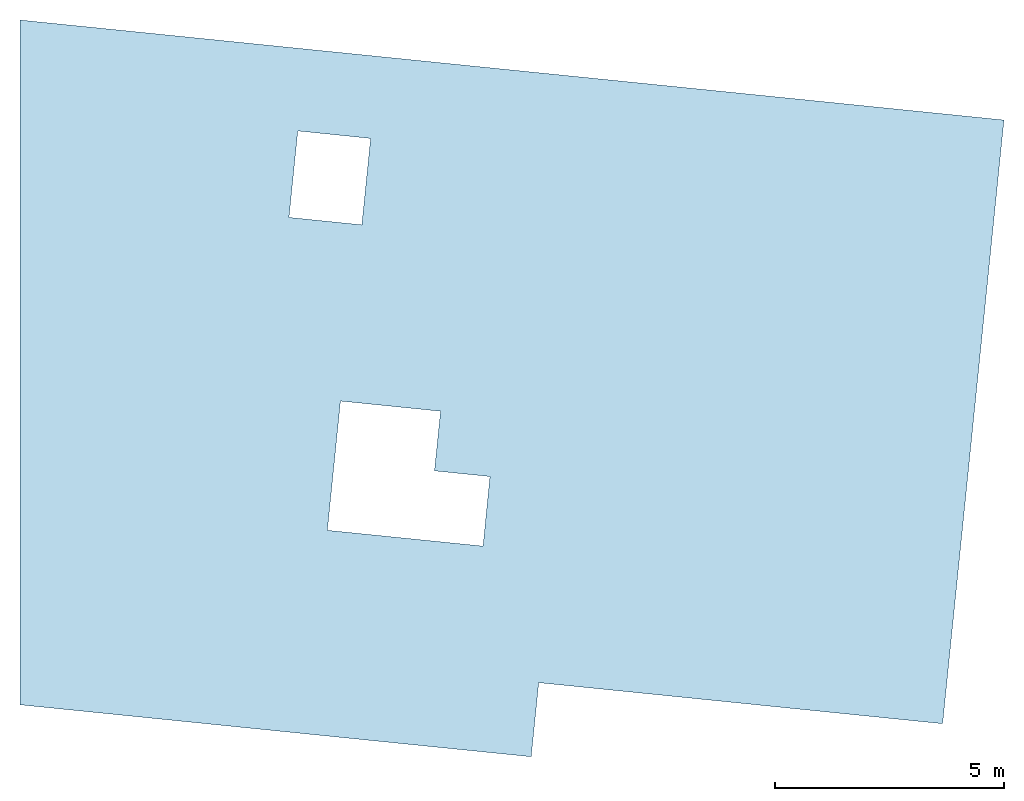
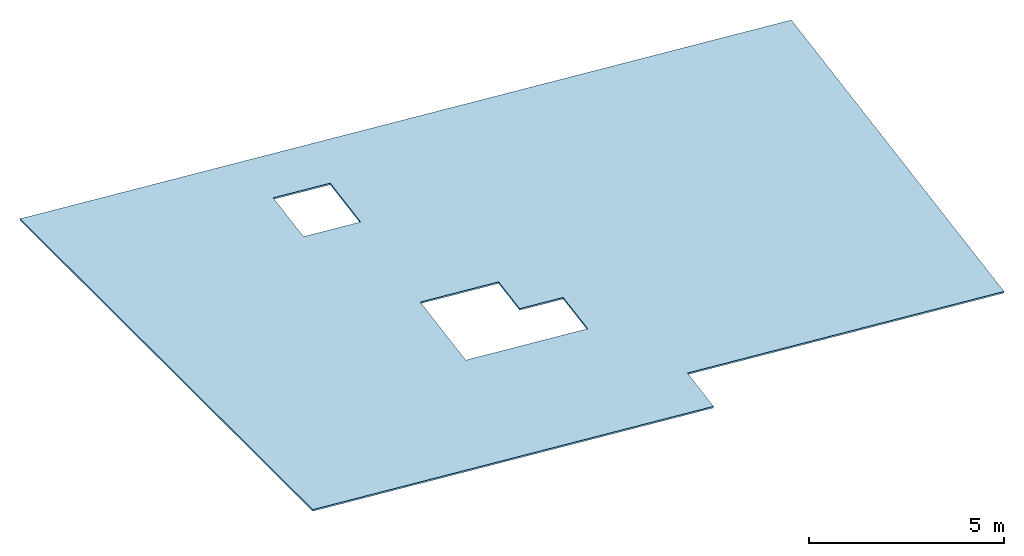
# One storey: 1 slab.
"""IFC2X3 building model written with IfcOpenShell, lengths in millimetres."""

import ifcopenshell
import ifcopenshell.guid

model = None  # the IFC model being written
_history = None  # IfcOwnerHistory: only IFC2X3 demands one
_inside = {}  # id of a spatial element -> (the spatial element, [elements in it])
_under = {}  # id of a project, library or spatial element -> (it, [spatial elements below it])
_declared = {}  # id of a project -> (the project, [libraries it declares])
_typed = {}  # id of a type object -> (the type object, [elements of that type])
_made_of = {}  # id of a material, layer set ... -> (it, [elements and type objects made of it])


def new_model(schema):
    """Start an empty IFC model of exactly this schema.

    Asked for "IFC4X3", IfcOpenShell would pick the latest addendum, in which some entities
    have other attributes; the version numbers below select the first issue.
    IFC2X3 requires an IfcOwnerHistory on every rooted entity: one is made here for all.
    """
    global model, _history
    if schema == "IFC4X3":
        model = ifcopenshell.file(schema_version=(4, 3, 0, 0))
    else:
        model = ifcopenshell.file(schema=schema)
    _inside.clear()
    _under.clear()
    _declared.clear()
    _typed.clear()
    _made_of.clear()
    _history = None
    if model.schema == "IFC2X3":
        org = make("IfcOrganization", Name="unknown")
        user = make(
            "IfcPersonAndOrganization",
            ThePerson=make("IfcPerson", FamilyName="unknown"),
            TheOrganization=org,
        )
        app = make(
            "IfcApplication",
            ApplicationDeveloper=org,
            Version="unknown",
            ApplicationFullName="unknown",
            ApplicationIdentifier="unknown",
        )
        _history = make(
            "IfcOwnerHistory",
            OwningUser=user,
            OwningApplication=app,
            ChangeAction="ADDED",
            CreationDate=0,
        )
    return model


def make(cls, **values):
    """One entity of the class cls with the attributes given. An attribute that is None is left unset."""
    return model.create_entity(
        cls, **{name: value for name, value in values.items() if value is not None}
    )


def entity(cls, *values):
    """Any entity or typed value of the class cls, its attributes in the order of the schema. None: left unset."""
    e = model.create_entity(cls)
    for i, value in enumerate(values):
        if value is not None:
            e[i] = value
    return e


def rooted(cls, **values):
    """An entity with a GlobalId (a new one), such as an element, a storey or a relation."""
    return make(cls, GlobalId=ifcopenshell.guid.new(), OwnerHistory=_history, **values)


def si_unit(unit_type, name, prefix=None):
    """IfcSIUnit, for example si_unit("LENGTHUNIT", "METRE", prefix="MILLI")."""
    return make("IfcSIUnit", UnitType=unit_type, Prefix=prefix, Name=name)


def converted_unit(unit_type, name, factor, base, dimensions=None, offset=None):
    """IfcConversionBasedUnit, such as the inch: factor (a typed value) times the base unit."""
    return make(
        "IfcConversionBasedUnit"
        if offset is None
        else "IfcConversionBasedUnitWithOffset",
        ConversionOffset=offset,
        Dimensions=None
        if dimensions is None
        else entity("IfcDimensionalExponents", *dimensions),
        UnitType=unit_type,
        Name=name,
        ConversionFactor=make(
            "IfcMeasureWithUnit", ValueComponent=factor, UnitComponent=base
        ),
    )


def derived_unit(unit_type, elements):
    """IfcDerivedUnit: a product of units, each with its exponent."""
    return make(
        "IfcDerivedUnit",
        Elements=[
            make("IfcDerivedUnitElement", Unit=unit, Exponent=power)
            for unit, power in elements
        ],
        UnitType=unit_type,
    )


def money_unit(currency):
    """IfcMonetaryUnit."""
    return make("IfcMonetaryUnit", Currency=currency)


def assignment(units):
    """IfcUnitAssignment: the units of a project."""
    return None if units is None else make("IfcUnitAssignment", Units=units)


def point(xyz):
    """IfcCartesianPoint."""
    return None if xyz is None else make("IfcCartesianPoint", Coordinates=xyz)


def direction(xyz):
    """IfcDirection."""
    return None if xyz is None else make("IfcDirection", DirectionRatios=xyz)


def frame(location, z_axis=None, x_axis=None):
    """IfcAxis2Placement3D, a coordinate frame: its origin and axes. An axis left out is left unset."""
    return make(
        "IfcAxis2Placement3D",
        Location=point(location),
        Axis=direction(z_axis),
        RefDirection=direction(x_axis),
    )


def origin_with_axes():
    """The frame at (0, 0, 0) with the z axis (0, 0, 1) and the x axis (1, 0, 0) written out."""
    return frame((0.0, 0.0, 0.0), z_axis=(0.0, 0.0, 1.0), x_axis=(1.0, 0.0, 0.0))


def place(relative_to, where):
    """IfcLocalPlacement: puts the frame where relative to a parent placement (None: the world)."""
    return make(
        "IfcLocalPlacement", PlacementRelTo=relative_to, RelativePlacement=where
    )


def context(
    kind, dimensions, precision=None, world=None, true_north=None, identifier=None
):
    """IfcGeometricRepresentationContext, for example the 3D "Model" context."""
    return make(
        "IfcGeometricRepresentationContext",
        ContextIdentifier=identifier,
        ContextType=kind,
        CoordinateSpaceDimension=dimensions,
        Precision=precision,
        WorldCoordinateSystem=world,
        TrueNorth=true_north,
    )


def subcontext(parent, identifier, kind, view, scale=None):
    """IfcGeometricRepresentationSubContext, for example "Body" below "Model"."""
    return make(
        "IfcGeometricRepresentationSubContext",
        ContextIdentifier=identifier,
        ContextType=kind,
        ParentContext=parent,
        TargetScale=scale,
        TargetView=view,
    )


def project(units=None, contexts=None):
    """IfcProject with its units and contexts."""
    return rooted(
        "IfcProject",
        Name="project",
        RepresentationContexts=contexts,
        UnitsInContext=assignment(units),
    )


def spatial(cls, under=None, at=None, **own):
    """A site, building, storey or space (cls), placed at a placement, below another one or the project."""
    s = rooted(cls, ObjectPlacement=at, **own)
    if under is not None:
        _under.setdefault(under.id(), (under, []))[1].append(s)
    return s


def polyline(points):
    """IfcPolyline through the points."""
    return make("IfcPolyline", Points=[point(p) for p in points])


def outline(outer, holes=None, kind="AREA"):
    """IfcArbitraryClosedProfileDef: a profile drawn as a closed curve; with holes, ...WithVoids."""
    if holes is None:
        return make("IfcArbitraryClosedProfileDef", ProfileType=kind, OuterCurve=outer)
    return make(
        "IfcArbitraryProfileDefWithVoids",
        ProfileType=kind,
        OuterCurve=outer,
        InnerCurves=holes,
    )


def extrude(swept, where, along, depth):
    """IfcExtrudedAreaSolid: the profile swept, set in the frame where, extruded along a direction by depth."""
    return make(
        "IfcExtrudedAreaSolid",
        SweptArea=swept,
        Position=where,
        ExtrudedDirection=direction(along),
        Depth=depth,
    )


def shape(context_of_items, identifier, shape_type, items):
    """IfcShapeRepresentation: the items that make up one representation, for example the "Body"."""
    return make(
        "IfcShapeRepresentation",
        ContextOfItems=context_of_items,
        RepresentationIdentifier=identifier,
        RepresentationType=shape_type,
        Items=items,
    )


def material(Name=None, Category=None):
    """IfcMaterial."""
    return make("IfcMaterial", Name=Name, Category=Category)


def layer(
    of_material, thickness, ventilated=None, Name=None, Category=None, Priority=None
):
    """IfcMaterialLayer: one layer of a wall or slab, of a material (None: an air gap)."""
    return make(
        "IfcMaterialLayer",
        Material=of_material,
        LayerThickness=thickness,
        IsVentilated=ventilated,
        Name=Name,
        Category=Category,
        Priority=Priority,
    )


def layer_set(layers, Name=None):
    """IfcMaterialLayerSet."""
    return make("IfcMaterialLayerSet", MaterialLayers=layers, LayerSetName=Name)


def layer_usage(for_layer_set, set_direction, sense, offset, extent=None):
    """IfcMaterialLayerSetUsage: how a layer set lies in its element."""
    return make(
        "IfcMaterialLayerSetUsage",
        ForLayerSet=for_layer_set,
        LayerSetDirection=set_direction,
        DirectionSense=sense,
        OffsetFromReferenceLine=offset,
        ReferenceExtent=extent,
    )


def made_of(thing, what):
    """Note that an element or type object is made of a material, layer set ...; save() writes the relation."""
    if what is not None:
        _made_of.setdefault(what.id(), (what, []))[1].append(thing)
    return thing


def type_object(cls, material=None, **own):
    """A type object (cls), such as IfcWallType, which elements share."""
    return made_of(rooted(cls, **own), material)


def element(
    cls,
    number,
    at=None,
    inside=None,
    cuts=None,
    type_object=None,
    material=None,
    context=None,
    identifier="Body",
    shape_type=None,
    held_by="IfcProductDefinitionShape",
    body=None,
    shapes=None,
    **own,
):
    """One element of the class cls, such as IfcWall. Its Tag is "e" and its number.

    at: its placement. inside: the storey or other place that contains it. cuts: it is an
    opening in that element (IfcRelVoidsElement). A single representation is given by context,
    identifier, shape_type and body (its items); several are given by shapes. held_by: the class
    of the entity that holds the representations. save() writes the other relations.
    """
    e = rooted(cls, Tag="e%d" % number, ObjectPlacement=at, **own)
    if body is not None:
        shapes = [shape(context, identifier, shape_type, body)]
    if shapes is not None:
        e.Representation = make(held_by, Representations=shapes)
    if inside is not None:
        _inside.setdefault(inside.id(), (inside, []))[1].append(e)
    if cuts is not None:
        rooted(
            "IfcRelVoidsElement", RelatingBuildingElement=cuts, RelatedOpeningElement=e
        )
    if type_object is not None:
        _typed.setdefault(type_object.id(), (type_object, []))[1].append(e)
    return made_of(e, material)


def aggregate(whole, parts):
    """IfcRelAggregates: a whole, such as a stair, and the parts it consists of."""
    return rooted("IfcRelAggregates", RelatingObject=whole, RelatedObjects=parts)


def save(model, path):
    """Write the relations noted so far, then the file.

    IfcRelAggregates (storeys below a building ...), IfcRelContainedInSpatialStructure (elements
    in a storey), IfcRelDefinesByType, IfcRelAssociatesMaterial and IfcRelDeclares: one each for
    every whole, place, type object, material and project.
    """
    for whole, parts in _under.values():
        aggregate(whole, parts)
    for where, things in _inside.values():
        rooted(
            "IfcRelContainedInSpatialStructure",
            RelatedElements=things,
            RelatingStructure=where,
        )
    for kind, things in _typed.values():
        rooted("IfcRelDefinesByType", RelatedObjects=things, RelatingType=kind)
    for what, things in _made_of.values():
        rooted("IfcRelAssociatesMaterial", RelatedObjects=things, RelatingMaterial=what)
    for by, libraries in _declared.values():
        rooted("IfcRelDeclares", RelatingContext=by, RelatedDefinitions=libraries)
    model.write(path)


model = new_model("IFC2X3")

# Units and contexts
model_context = context("Model", 3, precision=0.01, world=origin_with_axes(), true_north=direction((0.0, 1.0)))
body_context = subcontext(model_context, "Body", "Model", "MODEL_VIEW")
ifc_project = project(units=[si_unit("LENGTHUNIT", "METRE", prefix="MILLI"), si_unit("AREAUNIT", "SQUARE_METRE"), si_unit("VOLUMEUNIT", "CUBIC_METRE"), converted_unit("PLANEANGLEUNIT", "DEGREE", entity("IfcPlaneAngleMeasure", 0.0174532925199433), si_unit("PLANEANGLEUNIT", "RADIAN"), dimensions=[0, 0, 0, 0, 0, 0, 0]), money_unit("USD"), converted_unit("TIMEUNIT", "Year", entity("IfcTimeMeasure", 31557600.0), si_unit("TIMEUNIT", "SECOND"), dimensions=[0, 0, 1, 0, 0, 0, 0]), si_unit("MASSUNIT", "GRAM", prefix="KILO"), si_unit("THERMODYNAMICTEMPERATUREUNIT", "DEGREE_CELSIUS"), si_unit("LUMINOUSINTENSITYUNIT", "LUMEN"), si_unit("ENERGYUNIT", "JOULE", prefix="MEGA"), derived_unit("THERMALCONDUCTANCEUNIT", [(si_unit("POWERUNIT", "WATT"), 1), (si_unit("LENGTHUNIT", "METRE"), -1), (si_unit("THERMODYNAMICTEMPERATUREUNIT", "KELVIN"), -1)]), derived_unit("SPECIFICHEATCAPACITYUNIT", [(si_unit("ENERGYUNIT", "JOULE"), 1), (si_unit("MASSUNIT", "GRAM", prefix="KILO"), -1), (si_unit("THERMODYNAMICTEMPERATUREUNIT", "KELVIN"), -1)]), derived_unit("MASSDENSITYUNIT", [(si_unit("MASSUNIT", "GRAM", prefix="KILO"), 1), (si_unit("VOLUMEUNIT", "CUBIC_METRE"), -1)])], contexts=[model_context])

# Site, building, storey
site_placement = place(None, origin_with_axes())
site = spatial("IfcSite", under=ifc_project, at=site_placement, Name="Site", CompositionType="ELEMENT")
building_placement = place(site_placement, origin_with_axes())
building = spatial("IfcBuilding", under=site, at=building_placement, Name="Bâtiment", CompositionType="ELEMENT")
storey_placement = place(building_placement, origin_with_axes())
storey = spatial("IfcBuildingStorey", under=building, at=storey_placement, Name="cadastre", CompositionType="ELEMENT", Elevation=0.0)

# Slab
ifc_material = material(Name="100 % (2) 313493396")
ifc_layer = layer(ifc_material, 50.0, ventilated="UNKNOWN")
ifc_layer_set = layer_set([ifc_layer], Name="dalle 5")
ifc_layer_usage = layer_usage(ifc_layer_set, "AXIS3", "NEGATIVE", 50.0)
slab_type = type_object("IfcSlabType", Name="dalle 5 50", PredefinedType="FLOOR")
slab_placement = place(storey_placement, frame((2218314.233344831, -617327.5058083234, 2300.0), z_axis=(0.0, 0.0, 1.0), x_axis=(1.0, 0.0, 0.0)))
element("IfcSlab", 1, at=slab_placement, inside=storey, type_object=slab_type, material=ifc_layer_usage, Name="Dalle-033", PredefinedType="FLOOR", context=body_context, shape_type="SweptSolid", body=[
    extrude(outline(polyline([(0.0, 0.0), (-2.273736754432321e-10, -3351.655315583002), (11180.38566942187, -4487.85026044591), (11345.02077082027, -2867.807910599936), (15262.83368136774, -3265.951530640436), (20177.97953945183, -3765.448063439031), (21519.78244697, 9438.161111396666), (21161.33144167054, 9474.588318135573), (11938.66842440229, 10411.83175572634), (8028.554303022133, 10809.19299440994), (6078.597458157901, 11007.35530967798), (3.410605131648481e-10, 11625.08638873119), (3.410605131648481e-10, 9980.117907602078), (0.0, 0.0)]), holes=[polyline([(7475.394711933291, 7146.350591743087), (5883.593205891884, 7308.115747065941), (6075.689334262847, 9198.380098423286), (7667.306564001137, 9034.801627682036), (7475.394711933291, 7146.350591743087)]), polyline([(10126.14959585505, 119.6743454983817), (6722.521560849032, 465.5644678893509), (7009.637444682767, 3290.84223170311), (9196.685406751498, 3068.585780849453), (9064.132707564, 1764.240508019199), (10277.88128948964, 1640.89392365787), (10126.14959585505, 119.6743454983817)])]), frame((0.0, 0.0, -50.0), z_axis=(0.0, 0.0, 1.0), x_axis=(1.0, 0.0, 0.0)), (0.0, 0.0, 1.0), 50.0),
])

save(model, "model.ifc")
